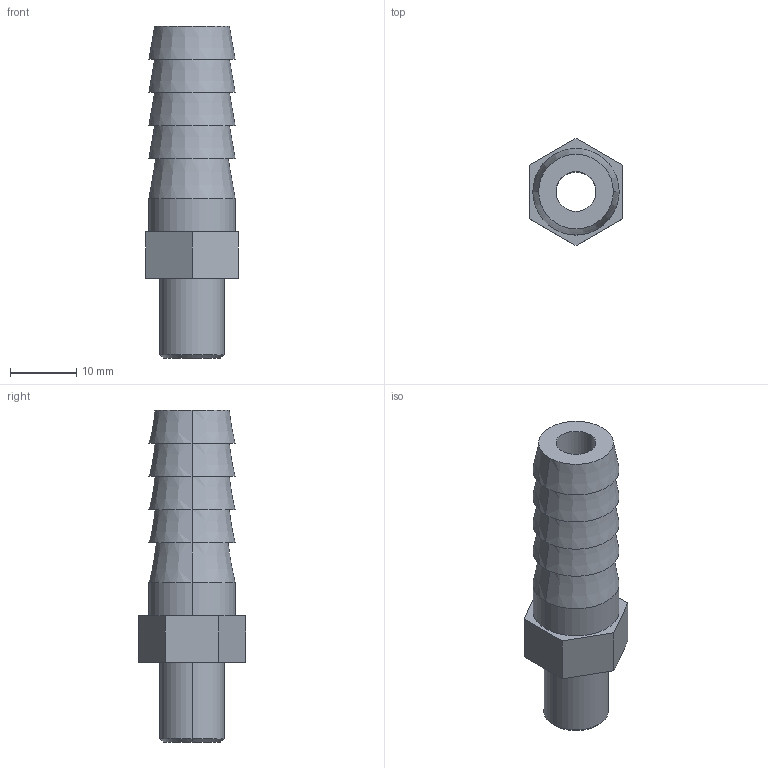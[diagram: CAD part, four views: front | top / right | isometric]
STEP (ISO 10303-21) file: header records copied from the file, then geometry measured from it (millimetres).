
FILE_DESCRIPTION (( 'STEP AP214' ), '1' );
FILE_NAME ('BruyRubio_BR87_1_8_GAS.STEP', '2019-12-17T11:04:06', ( '' ), ( '' ), 'SwSTEP 2.0', 'SolidWorks 2017', '' );
FILE_SCHEMA (( 'AUTOMOTIVE_DESIGN' ));
Length unit declared in the file: millimetre
Products named in the file (1): BruyRubio_BR87_1_8_GAS
Bounding box: 14 x 16.17 x 50 mm (x, y, z)
Volume: 4311.4 mm3; surface area: 3235.2 mm2
Topology: 1 solids, 1 shells, 32 faces, 68 edges, 44 vertices
Faces by surface type: plane 14, cone 12, cylinder 6
Entity records: 1262 total; most frequent: DIRECTION 166, CARTESIAN_POINT 145, ORIENTED_EDGE 136, EDGE_CURVE 68, AXIS2_PLACEMENT_3D 65, VERTEX_POINT 44, EDGE_LOOP 40, LINE 36
